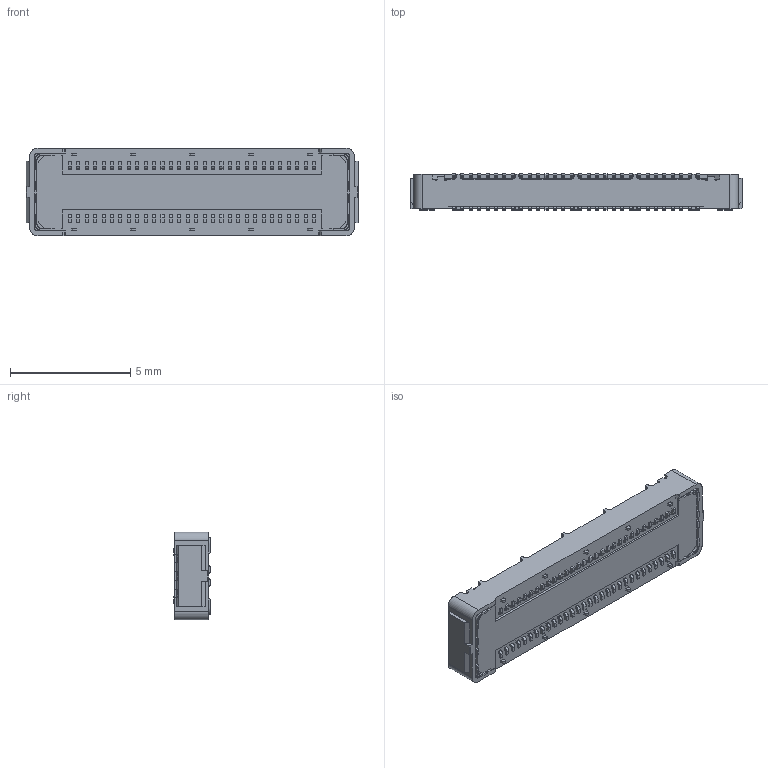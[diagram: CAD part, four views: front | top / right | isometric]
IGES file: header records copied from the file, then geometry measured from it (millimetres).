
Start section: SolidWorks IGES file using analytic representation for surfaces
Global section: file name: C:\3dwork\Baba\20240514 NOVA35-HDH 汎用70P図面\21003-060E+21004-060EC NOVASTACK 35-HDH MATING STEP R4R5.IGS; native system: SolidWorks 2023; preprocessor: SolidWorks 2023; author: 83109; date: 240515.154855; units: millimetre
Bounding box: 13.8 x 1.5 x 3.64 mm (x, y, z)
Surface area: 181.1 mm2 (no closed solid volume)
Topology: 0 solids, 0 shells, 1817 faces, 11388 edges, 11388 vertices
Faces by surface type: bspline 1309, revolution 508
